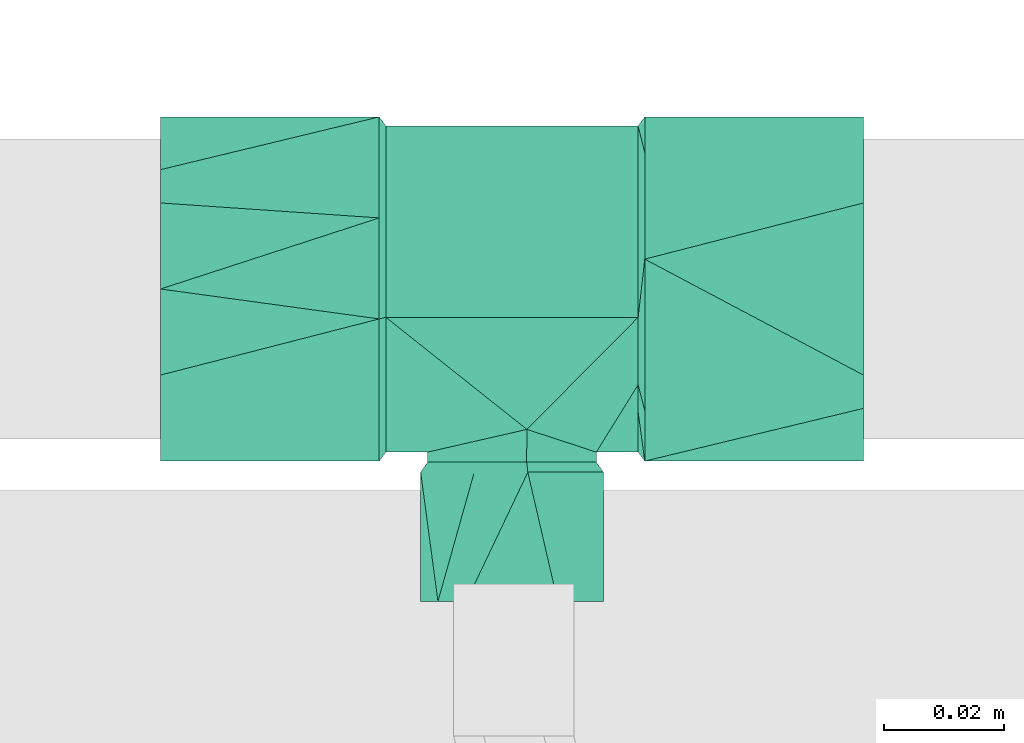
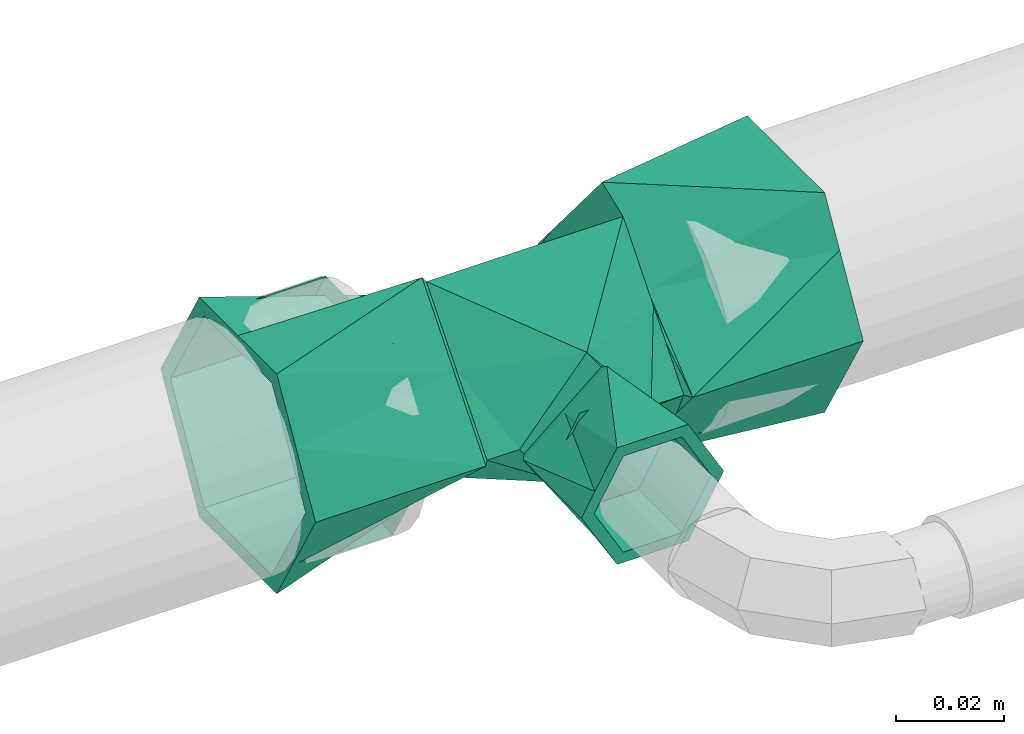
# One storey, part 133 of 166: 1 flow fitting.
"""IFC2X3 building model written with IfcOpenShell, lengths in metres."""

from ifc_helpers import new_model, entity, si_unit, converted_unit, direction, frame, origin, place, context, subcontext, project, spatial, faceted_brep, source, transform, mapped, material, type_object, type_shapes, element, save


model = new_model("IFC2X3")

# Units and contexts
model_context = context("Model", 3, precision=1e-05, world=origin(), true_north=direction((6.123233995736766e-17, 1.0)))
body_context = subcontext(model_context, "Body", "Model", "MODEL_VIEW")
ifc_project = project(units=[si_unit("LENGTHUNIT", "METRE"), converted_unit("PLANEANGLEUNIT", "DEGREE", entity("IfcPlaneAngleMeasure", 0.017453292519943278), si_unit("PLANEANGLEUNIT", "RADIAN"), dimensions=[0, 0, 0, 0, 0, 0, 0]), si_unit("AREAUNIT", "SQUARE_METRE")], contexts=[model_context])

# Site, building, storey
site_placement = place(None, origin())
site = spatial("IfcSite", under=ifc_project, at=site_placement, Name="Default", CompositionType="ELEMENT")
building_placement = place(site_placement, origin())
building = spatial("IfcBuilding", under=site, at=building_placement, Name="CASA DE ACOLHIDA PARA IDOSOS", CompositionType="ELEMENT")
storey_placement = place(building_placement, frame((0.0, 0.0, -1.7499999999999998)))
storey = spatial("IfcBuildingStorey", under=building, at=storey_placement, Name="IMPLANTAÇÃO DRENAGEM", CompositionType="ELEMENT", Elevation=-1.7499999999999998)

# Flow fitting
ifc_material = material(Name="PVC Branco")
pipe_fitting_type = type_object("IfcPipeFittingType", Name="AF_Roscavel_Te_Reducao:Standard", PredefinedType="NOTDEFINED", material=ifc_material)
shared_shape = source(origin(), body_context, "Body", "Brep", [
    faceted_brep([(-0.022099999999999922, 0.022730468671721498, -0.007053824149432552), (-0.022099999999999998, 0.028649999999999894, 0.0), (-0.021, 0.027149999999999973, 0.0), (-0.02099999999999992, 0.019184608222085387, -0.006684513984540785), (-0.020999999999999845, 0.011219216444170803, -0.013369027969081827), (-0.022099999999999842, 0.0168109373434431, -0.014107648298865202), (-0.020999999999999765, 0.0032538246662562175, -0.02005354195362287), (-0.022099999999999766, 0.010891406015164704, -0.02116147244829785), (-0.020999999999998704, -0.015930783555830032, -0.013369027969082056), (-0.022099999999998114, -0.020244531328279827, -0.007053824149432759), (-0.022099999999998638, -0.01183906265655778, -0.01410764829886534), (-0.020999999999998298, -0.02051095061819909, -0.007911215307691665), (-0.02209999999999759, -0.02865000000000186, 0.0), (-0.020999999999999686, -0.004711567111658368, -0.02673805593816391), (-0.02209999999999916, -0.0034335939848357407, -0.021161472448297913), (-0.022099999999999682, 0.004971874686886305, -0.028215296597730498), (-0.020999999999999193, -0.010321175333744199, -0.02005354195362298), (-0.02099999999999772, -0.027150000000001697, 0.0), (-0.02210000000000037, -0.022732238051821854, 0.007053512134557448), (-0.021000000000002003, -0.019182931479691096, 0.006684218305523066), (-0.021000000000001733, -0.011215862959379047, 0.013368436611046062), (-0.022100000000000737, -0.0168144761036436, 0.014107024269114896), (-0.021000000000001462, -0.0032487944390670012, 0.020052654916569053), (-0.022100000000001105, -0.010896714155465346, 0.021160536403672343), (-0.022100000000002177, 0.020242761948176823, 0.007053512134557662), (-0.02100000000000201, 0.021542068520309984, 0.006684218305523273), (-0.022100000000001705, 0.0034282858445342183, 0.021160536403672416), (-0.021000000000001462, 0.010326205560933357, 0.020052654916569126), (-0.022100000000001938, 0.01183552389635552, 0.014107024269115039), (-0.021000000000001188, 0.004718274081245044, 0.02673687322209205), (-0.022100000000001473, -0.004978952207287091, 0.028214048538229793), (-0.021000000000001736, 0.01593413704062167, 0.013368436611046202), (-0.02099999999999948, 0.018449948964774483, 0.010369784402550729), (0.021, 0.027149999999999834, 0.0), (0.021000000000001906, 0.004718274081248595, 0.026736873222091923), (0.021000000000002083, 0.010326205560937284, 0.02005265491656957), (0.021000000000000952, 0.015934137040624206, 0.013368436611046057), (0.021000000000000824, 0.020511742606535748, 0.007912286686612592), (0.021, -0.027150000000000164, 0.0), (0.0024774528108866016, -0.023369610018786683, 0.013819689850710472), (0.008258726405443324, -0.025259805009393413, 0.006909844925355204), (0.014040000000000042, -0.027150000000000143, 0.0), (-0.014039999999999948, -0.02715000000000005, 0.0), (-0.008913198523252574, -0.02597661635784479, 0.004289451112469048), (-0.0057812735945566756, -0.02525980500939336, 0.0069098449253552), (0.021000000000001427, -0.01918293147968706, 0.006684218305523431), (0.021000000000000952, -0.011215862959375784, 0.013368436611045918), (0.02100000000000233, -0.00324879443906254, 0.020052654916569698), (0.02099999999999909, 0.019607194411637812, -0.006329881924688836), (0.020999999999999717, 0.011219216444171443, -0.013369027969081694), (0.02099999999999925, 0.003253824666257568, -0.02005354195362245), (0.020999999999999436, -0.004711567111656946, -0.02673805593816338), (-0.0024814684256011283, -0.023370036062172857, -0.013818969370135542), (0.020999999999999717, -0.015930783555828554, -0.013369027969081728), (0.008912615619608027, -0.025976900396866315, -0.004288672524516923), (0.005779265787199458, -0.025260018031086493, -0.006909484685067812), (-0.00826073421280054, -0.025260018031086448, -0.006909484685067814), (0.020999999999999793, -0.020510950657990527, -0.007911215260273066), (0.020999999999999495, -0.010321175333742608, -0.020053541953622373), (0.02210000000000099, 0.01681093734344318, 0.014107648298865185), (0.022100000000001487, 0.01089140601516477, 0.021161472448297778), (0.022100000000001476, -0.012730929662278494, 0.013359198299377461), (0.022100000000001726, -0.003879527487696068, 0.020787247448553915), (0.022100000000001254, -0.020690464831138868, 0.006679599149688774), (0.022100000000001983, 0.004971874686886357, 0.02821529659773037), (0.0221, 0.028650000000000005, 0.0), (0.022100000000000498, 0.022730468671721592, 0.007053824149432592), (0.022100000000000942, -0.011839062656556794, 0.014107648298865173), (0.022100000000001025, -0.02864999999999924, 0.0), (0.022099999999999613, -0.009809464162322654, -0.022456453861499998), (0.022099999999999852, -0.021644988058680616, -0.008349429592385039), (0.02209999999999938, 0.0034282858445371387, -0.02116053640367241), (0.022099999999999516, -0.004978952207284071, -0.028214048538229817), (0.02209999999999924, 0.011835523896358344, -0.014107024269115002), (0.0220999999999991, 0.02024276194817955, -0.0070535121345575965), (0.02209999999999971, -0.014639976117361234, -0.01669885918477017), (0.022100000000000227, -0.016814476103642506, -0.014107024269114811), (-0.058500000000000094, -0.014325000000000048, -0.024811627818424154), (-0.058500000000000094, -0.025, 0.0), (-0.058500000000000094, -0.01997114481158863, -0.00871023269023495), (-0.0585000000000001, -0.019870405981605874, -0.015206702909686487), (-0.058500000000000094, -0.012500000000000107, -0.021650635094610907), (-0.058500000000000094, 0.0, -0.02165063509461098), (-0.058500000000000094, 0.012499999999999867, -0.021650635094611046), (-0.0585000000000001, 0.0, -0.024811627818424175), (-0.058500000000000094, -0.028650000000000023, 0.0), (-0.0585000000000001, -0.018750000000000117, 0.01082531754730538), (-0.058500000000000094, -0.012500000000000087, 0.021650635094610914), (-0.0585000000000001, -0.021487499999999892, 0.012405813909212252), (-0.058500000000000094, -0.014324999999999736, 0.02481162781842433), (-0.058500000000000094, 0.0, 0.021650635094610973), (-0.058500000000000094, 0.012499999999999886, 0.021650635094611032), (-0.0585000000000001, 0.0, 0.02481162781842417), (-0.058500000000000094, 0.014325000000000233, 0.024811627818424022), (-0.0585000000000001, 0.019870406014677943, 0.015206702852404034), (-0.058500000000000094, 0.02864999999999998, 0.0), (-0.058500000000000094, 0.019971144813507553, 0.00871023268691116), (-0.058500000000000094, 0.025, 0.0), (-0.0585000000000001, 0.021487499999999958, -0.012405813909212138), (-0.058500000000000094, 0.014324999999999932, -0.0248116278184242), (-0.058500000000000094, 0.018749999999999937, -0.010825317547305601), (0.0585000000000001, 0.021487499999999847, 0.012405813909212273), (0.058500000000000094, 0.028650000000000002, 0.0), (0.058500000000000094, -0.028650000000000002, 0.0), (0.0585000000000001, -0.01987040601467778, 0.015206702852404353), (0.0585000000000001, -0.021487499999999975, -0.012405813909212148), (0.0585000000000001, 0.019870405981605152, -0.015206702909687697), (0.058500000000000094, 0.014325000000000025, -0.024811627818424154), (0.058500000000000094, 0.024999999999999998, 0.0), (0.058500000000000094, 0.019971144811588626, -0.00871023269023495), (0.058500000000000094, 0.012500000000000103, -0.021650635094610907), (0.058500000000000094, 0.0, -0.02165063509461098), (0.058500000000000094, -0.012499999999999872, -0.021650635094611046), (0.0585000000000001, 0.0, -0.024811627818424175), (0.0585000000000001, 0.01875000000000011, 0.01082531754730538), (0.058500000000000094, 0.012500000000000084, 0.021650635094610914), (0.058500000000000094, 0.014324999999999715, 0.02481162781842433), (0.058500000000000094, 0.0, 0.021650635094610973), (0.058500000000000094, -0.012499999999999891, 0.021650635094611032), (0.0585000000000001, 0.0, 0.02481162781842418), (0.058500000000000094, -0.014325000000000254, 0.024811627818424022), (0.058500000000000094, -0.019971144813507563, 0.00871023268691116), (0.058500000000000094, -0.025000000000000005, 0.0), (0.058500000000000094, -0.014324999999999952, -0.0248116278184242), (0.058500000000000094, -0.018749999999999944, -0.010825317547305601), (-0.032600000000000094, -0.025, 0.0), (-0.032600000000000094, -0.019971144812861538, 0.00871023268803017), (-0.032600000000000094, -0.012500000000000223, 0.021650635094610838), (-0.032600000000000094, 0.0, 0.021650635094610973), (-0.032600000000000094, 0.012499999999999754, 0.02165063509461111), (-0.032600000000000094, 0.018749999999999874, 0.010825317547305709), (-0.032600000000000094, 0.025, 0.0), (-0.032600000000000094, 0.019971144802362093, -0.008710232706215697), (-0.032600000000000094, 0.012500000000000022, -0.021650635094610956), (-0.032600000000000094, 0.0, -0.02165063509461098), (-0.032600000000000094, -0.012499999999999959, -0.021650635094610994), (-0.032600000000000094, -0.018749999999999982, -0.010825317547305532), (0.03260000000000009, -0.025, 0.0), (0.032600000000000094, -0.018749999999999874, 0.010825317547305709), (0.032600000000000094, -0.012499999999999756, 0.02165063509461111), (0.032600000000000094, 0.0, 0.021650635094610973), (0.032600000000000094, 0.012500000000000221, 0.021650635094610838), (0.032600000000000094, 0.019971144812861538, 0.00871023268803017), (0.032600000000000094, 0.025, 0.0), (0.032600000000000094, 0.018749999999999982, -0.010825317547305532), (0.032600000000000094, 0.012499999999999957, -0.021650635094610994), (0.032600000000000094, 0.0, -0.02165063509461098), (0.032600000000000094, -0.012500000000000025, -0.021650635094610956), (0.032600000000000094, -0.019971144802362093, -0.008710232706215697), (0.012500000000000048, -0.03589999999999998, 0.0), (0.006250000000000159, -0.035899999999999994, 0.010825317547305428), (-0.0062499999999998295, -0.03590000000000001, 0.010825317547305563), (-0.012499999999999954, -0.03590000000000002, 0.0), (-0.006249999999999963, -0.03590000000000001, -0.010825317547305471), (0.006250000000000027, -0.035899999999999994, -0.01082531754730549), (0.012500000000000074, -0.05199999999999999, 0.0), (0.006250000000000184, -0.052, 0.010825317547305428), (-0.006249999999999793, -0.05200000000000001, 0.01082531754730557), (-0.01249999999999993, -0.052000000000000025, 0.0), (-0.006249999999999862, -0.05200000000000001, -0.010825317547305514), (0.006250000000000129, -0.052, -0.010825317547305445), (-0.011620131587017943, -0.028800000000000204, -0.0028835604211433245), (-0.01403999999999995, -0.02880000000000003, 0.0), (-0.002436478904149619, -0.028800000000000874, -0.013826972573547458), (-0.008238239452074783, -0.02880000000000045, -0.006913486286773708), (0.0030428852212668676, -0.028800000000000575, -0.009228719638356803), (0.014040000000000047, -0.02879999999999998, 0.0), (0.008541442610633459, -0.02880000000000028, -0.004614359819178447), (0.005801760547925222, -0.02880000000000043, -0.006913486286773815), (0.011620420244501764, -0.028799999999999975, 0.002883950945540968), (0.002439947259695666, -0.028799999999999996, 0.01382636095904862), (0.008239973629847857, -0.028799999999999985, 0.00691318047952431), (-0.0030421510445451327, -0.028800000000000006, 0.00922698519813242), (-0.008541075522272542, -0.028800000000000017, 0.004613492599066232), (-0.005800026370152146, -0.028800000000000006, 0.006913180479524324), (0.0026415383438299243, -0.030500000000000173, 0.01496870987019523), (0.008920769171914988, -0.03050000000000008, 0.007484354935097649), (0.010065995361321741, -0.030500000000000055, 0.006119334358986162), (0.015200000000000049, -0.03049999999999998, 0.0), (-0.015199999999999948, -0.03050000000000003, 0.0), (-0.006279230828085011, -0.0305000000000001, 0.007484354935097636), (-0.0026377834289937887, -0.030500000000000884, -0.01496937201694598), (-0.008918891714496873, -0.03050000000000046, -0.007484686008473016), (-0.010065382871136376, -0.030500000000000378, -0.006118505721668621), (0.006281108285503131, -0.03050000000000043, -0.007484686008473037), (0.007600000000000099, -0.052, -0.01316358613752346), (0.012327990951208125, -0.05199999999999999, -0.004974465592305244), (0.0, -0.052000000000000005, -0.01316358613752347), (0.015200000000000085, -0.051999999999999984, 0.0), (0.011400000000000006, -0.05199999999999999, 0.00658179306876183), (0.007599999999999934, -0.052, 0.013163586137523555), (0.0, -0.052000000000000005, 0.013163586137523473), (-0.007600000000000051, -0.05200000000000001, 0.01316358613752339), (-0.012327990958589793, -0.052000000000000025, 0.00497446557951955), (-0.015199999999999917, -0.05200000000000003, 0.0), (-0.011399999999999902, -0.052000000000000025, -0.006581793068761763), (-0.007599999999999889, -0.05200000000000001, -0.013163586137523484)], [[[0, 1, 2]], [[3, 4, 5]], [[6, 7, 4]], [[8, 9, 10]], [[11, 12, 9]], [[13, 14, 15]], [[14, 16, 10]], [[16, 14, 13]], [[2, 3, 0]], [[9, 8, 11]], [[11, 17, 12]], [[7, 6, 15]], [[6, 13, 15]], [[5, 4, 7]], [[16, 8, 10]], [[3, 5, 0]], [[18, 12, 17]], [[19, 20, 21]], [[22, 23, 20]], [[1, 24, 25]], [[25, 2, 1]], [[26, 27, 28]], [[29, 26, 30]], [[27, 26, 29]], [[17, 19, 18]], [[23, 22, 30]], [[24, 28, 31]], [[22, 29, 30]], [[21, 20, 23]], [[27, 31, 28]], [[19, 21, 18]], [[24, 31, 32, 25]], [[33, 2, 25, 32, 31, 27, 29, 34, 35, 36, 37]], [[38, 39, 40, 41]], [[20, 42, 43, 44, 39]], [[39, 38, 45, 46]], [[20, 39, 46]], [[34, 29, 22, 20, 46, 47]], [[42, 20, 19, 17]], [[4, 3, 2, 33, 48, 49, 50, 51, 13, 6]], [[51, 52, 13]], [[53, 41, 54, 55, 52]], [[8, 52, 56, 42]], [[42, 17, 11, 8]], [[41, 53, 57, 38]], [[52, 51, 58, 53]], [[52, 8, 16, 13]], [[36, 35, 59, 37]], [[34, 60, 35]], [[46, 45, 61]], [[47, 46, 62]], [[38, 63, 45]], [[64, 34, 47]], [[65, 33, 66]], [[60, 34, 64]], [[46, 61, 67, 62]], [[64, 47, 62]], [[33, 37, 66]], [[37, 59, 66]], [[63, 38, 68]], [[63, 61, 45]], [[60, 59, 35]], [[51, 69, 58]], [[68, 38, 70]], [[51, 71, 72]], [[73, 49, 74]], [[75, 53, 58]], [[33, 65, 48]], [[50, 73, 71]], [[53, 75, 76, 70]], [[48, 74, 49]], [[73, 50, 49]], [[51, 50, 71]], [[38, 57, 53, 70]], [[48, 65, 74]], [[69, 51, 72]], [[69, 75, 58]], [[77, 78, 79]], [[78, 77, 80]], [[77, 79, 81]], [[77, 81, 82]], [[77, 82, 83]], [[83, 84, 77]], [[78, 80, 85]], [[85, 86, 78]], [[85, 87, 86]], [[87, 85, 88]], [[87, 88, 89]], [[89, 90, 87]], [[89, 91, 90]], [[91, 89, 92]], [[91, 92, 93]], [[91, 93, 94]], [[91, 94, 95]], [[95, 96, 91]], [[95, 97, 96]], [[97, 95, 98]], [[97, 98, 99]], [[99, 83, 100]], [[83, 99, 84]], [[99, 100, 97]], [[28, 94, 93]], [[94, 28, 24, 1]], [[1, 95, 94]], [[65, 101, 102]], [[12, 88, 85]], [[68, 103, 104]], [[89, 21, 23, 30]], [[21, 89, 88]], [[88, 12, 18, 21]], [[92, 30, 26, 28]], [[30, 92, 89]], [[28, 93, 92]], [[10, 80, 77]], [[80, 10, 9, 12]], [[12, 85, 80]], [[68, 105, 103]], [[1, 98, 95]], [[65, 102, 106]], [[99, 5, 7, 15]], [[5, 99, 98]], [[98, 1, 0, 5]], [[15, 77, 84, 99]], [[77, 15, 14, 10]], [[107, 108, 109]], [[108, 107, 106]], [[107, 109, 110]], [[107, 110, 111]], [[107, 111, 112]], [[112, 113, 107]], [[108, 106, 102]], [[102, 114, 108]], [[102, 115, 114]], [[115, 102, 101]], [[115, 101, 116]], [[116, 117, 115]], [[116, 118, 117]], [[118, 116, 119]], [[118, 119, 120]], [[118, 120, 104]], [[118, 104, 103]], [[103, 121, 118]], [[103, 122, 121]], [[122, 103, 105]], [[122, 105, 123]], [[123, 112, 124]], [[112, 123, 113]], [[123, 124, 122]], [[67, 104, 120]], [[104, 67, 61, 63, 68]], [[116, 59, 60, 64]], [[59, 116, 101]], [[101, 65, 66, 59]], [[64, 120, 119, 116]], [[120, 64, 62, 67]], [[73, 106, 107]], [[106, 73, 74, 65]], [[123, 76, 75, 69, 72]], [[76, 123, 105]], [[105, 68, 70, 76]], [[113, 72, 71, 73]], [[72, 113, 123]], [[73, 107, 113]], [[125, 126, 127, 128, 129, 130, 131, 132, 133, 134, 135, 136]], [[87, 127, 126, 125, 78, 86]], [[137, 138, 139, 118, 121, 122]], [[129, 128, 127, 87, 90, 91]], [[139, 140, 141, 115, 117, 118]], [[131, 130, 129, 91, 96, 97]], [[115, 141, 142, 143, 108, 114]], [[83, 133, 132, 131, 97, 100]], [[143, 144, 145, 110, 109, 108]], [[135, 134, 133, 83, 82, 81]], [[145, 146, 147, 112, 111, 110]], [[125, 136, 135, 81, 79, 78]], [[112, 147, 148, 137, 122, 124]], [[143, 142, 141, 140, 139, 138, 137, 148, 147, 146, 145, 144]], [[149, 150, 151, 152, 153, 154]], [[155, 156, 150, 149]], [[156, 157, 151, 150]], [[157, 158, 152, 151]], [[158, 159, 153, 152]], [[159, 160, 154, 153]], [[160, 155, 149, 154]], [[42, 161, 162]], [[56, 163, 164, 161]], [[163, 56, 52]], [[165, 163, 52]], [[166, 167, 41]], [[55, 167, 168, 165]], [[55, 54, 41, 167]], [[165, 52, 55]], [[56, 161, 42]], [[41, 169, 166]], [[40, 170, 171, 169]], [[170, 40, 39]], [[172, 170, 39]], [[162, 173, 42]], [[44, 173, 174, 172]], [[44, 43, 42, 173]], [[172, 39, 44]], [[40, 169, 41]], [[175, 176, 177, 178, 166, 169, 171, 170]], [[170, 172, 174, 173, 162, 179, 180, 175]], [[181, 182, 183, 179, 162, 161, 164, 163]], [[163, 165, 168, 167, 166, 178, 184, 181]], [[185, 155, 160]], [[155, 185, 186]], [[185, 160, 159]], [[159, 187, 185]], [[155, 186, 188]], [[156, 155, 188]], [[156, 188, 189]], [[156, 189, 190]], [[156, 190, 157]], [[157, 190, 191]], [[157, 191, 192]], [[157, 192, 193]], [[157, 193, 194]], [[194, 158, 157]], [[158, 194, 195]], [[158, 195, 196]], [[196, 159, 158]], [[159, 196, 187]], [[180, 193, 192]], [[180, 179, 193]], [[179, 194, 193]], [[178, 189, 188]], [[175, 190, 176]], [[176, 190, 189]], [[189, 178, 177, 176]], [[180, 191, 175]], [[175, 191, 190]], [[180, 192, 191]], [[184, 186, 185]], [[184, 178, 186]], [[178, 188, 186]], [[179, 195, 194]], [[181, 196, 182]], [[182, 196, 195]], [[195, 179, 183, 182]], [[181, 185, 187, 196]], [[181, 184, 185]]]),
])
type_shapes(pipe_fitting_type, [shared_shape])
flow_fitting_placement = place(storey_placement, frame((-18.990948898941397, 49.25494207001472, -0.19999999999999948), z_axis=(0.0, 0.0, -1.0), x_axis=(-1.0, 0.0, 0.0)))
element("IfcFlowFitting", 1, at=flow_fitting_placement, inside=storey, type_object=pipe_fitting_type, material=ifc_material, Name="AF_Roscavel_Te_Reducao:Standard", ObjectType="AF_Roscavel_Te_Reducao:Standard", context=body_context, shape_type="MappedRepresentation", body=[
    mapped(shared_shape, transform((0.0, 0.0, 0.0), scale=1.0)),
])

save(model, "model.ifc")
